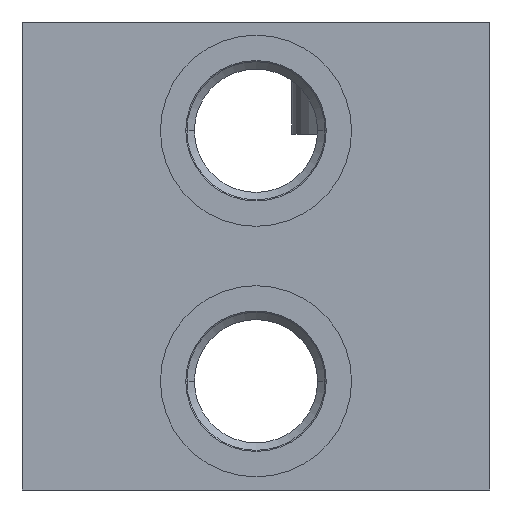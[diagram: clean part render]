
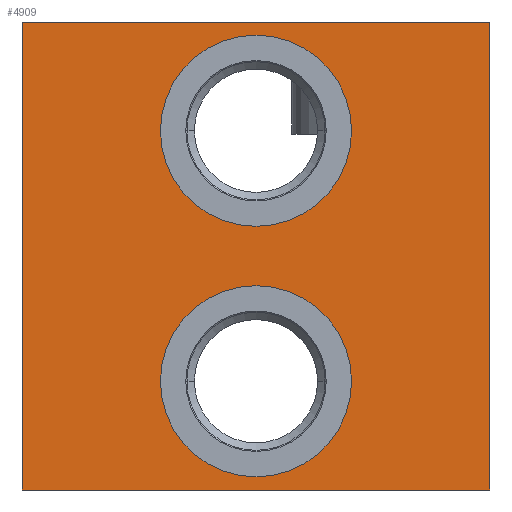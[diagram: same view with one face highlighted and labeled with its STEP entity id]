
A CAD part, left-side view. The second image highlights one B-rep face of the part: STEP entity #4909.
In plain terms, the highlighted planar face has unit normal (-1, 0, 0).
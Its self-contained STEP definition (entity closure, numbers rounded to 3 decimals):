
#30=DIRECTION('',(0.,-1.,0.));
#31=VECTOR('',#30,71.);
#32=CARTESIAN_POINT('',(0.,71.,0.));
#33=LINE('',#32,#31);
#179=DIRECTION('',(0.,0.,-1.));
#180=VECTOR('',#179,71.);
#181=CARTESIAN_POINT('',(0.,0.,0.));
#182=LINE('',#181,#180);
#884=DIRECTION('',(0.,0.,-1.));
#885=VECTOR('',#884,71.);
#886=CARTESIAN_POINT('',(0.,71.,0.));
#887=LINE('',#886,#885);
#891=CARTESIAN_POINT('',(0.,35.5,-54.5));
#892=DIRECTION('',(1.,0.,0.));
#893=DIRECTION('',(0.,-1.,0.));
#894=AXIS2_PLACEMENT_3D('',#891,#892,#893);
#899=CARTESIAN_POINT('',(0.,35.5,-54.5));
#900=DIRECTION('',(1.,0.,0.));
#901=DIRECTION('',(0.,1.,0.));
#902=AXIS2_PLACEMENT_3D('',#899,#900,#901);
#907=CARTESIAN_POINT('',(0.,35.5,-16.5));
#908=DIRECTION('',(1.,0.,0.));
#909=DIRECTION('',(0.,-1.,0.));
#910=AXIS2_PLACEMENT_3D('',#907,#908,#909);
#915=CARTESIAN_POINT('',(0.,35.5,-16.5));
#916=DIRECTION('',(1.,0.,0.));
#917=DIRECTION('',(0.,1.,0.));
#918=AXIS2_PLACEMENT_3D('',#915,#916,#917);
#944=DIRECTION('',(0.,-1.,0.));
#945=VECTOR('',#944,71.);
#946=CARTESIAN_POINT('',(0.,71.,-71.));
#947=LINE('',#946,#945);
#4070=CARTESIAN_POINT('',(0.,0.,0.));
#4072=VERTEX_POINT('',#4070);
#4076=CARTESIAN_POINT('',(0.,71.,0.));
#4077=VERTEX_POINT('',#4076);
#4078=CARTESIAN_POINT('',(0.,0.,-71.));
#4080=VERTEX_POINT('',#4078);
#4084=CARTESIAN_POINT('',(0.,71.,-71.));
#4085=VERTEX_POINT('',#4084);
#4114=CARTESIAN_POINT('',(0.,21.,-54.5));
#4115=CARTESIAN_POINT('',(0.,50.,-54.5));
#4116=VERTEX_POINT('',#4114);
#4117=VERTEX_POINT('',#4115);
#4130=CARTESIAN_POINT('',(0.,21.,-16.5));
#4131=CARTESIAN_POINT('',(0.,50.,-16.5));
#4132=VERTEX_POINT('',#4130);
#4133=VERTEX_POINT('',#4131);
#4885=CARTESIAN_POINT('',(0.,71.,0.));
#4886=DIRECTION('',(-1.,0.,0.));
#4887=DIRECTION('',(0.,-1.,0.));
#4888=AXIS2_PLACEMENT_3D('',#4885,#4886,#4887);
#4889=PLANE('',#4888);
#4890=ORIENTED_EDGE('',*,*,#4595,.T.);
#4891=ORIENTED_EDGE('',*,*,#4669,.T.);
#4893=ORIENTED_EDGE('',*,*,#4892,.F.);
#4894=ORIENTED_EDGE('',*,*,#4756,.F.);
#4895=EDGE_LOOP('',(#4890,#4891,#4893,#4894));
#4896=FACE_OUTER_BOUND('',#4895,.F.);
#4898=ORIENTED_EDGE('',*,*,#4897,.F.);
#4900=ORIENTED_EDGE('',*,*,#4899,.F.);
#4901=EDGE_LOOP('',(#4898,#4900));
#4902=FACE_BOUND('',#4901,.F.);
#4904=ORIENTED_EDGE('',*,*,#4903,.F.);
#4906=ORIENTED_EDGE('',*,*,#4905,.F.);
#4907=EDGE_LOOP('',(#4904,#4906));
#4908=FACE_BOUND('',#4907,.F.);
#895=CIRCLE('',#894,14.5);
#903=CIRCLE('',#902,14.5);
#911=CIRCLE('',#910,14.5);
#919=CIRCLE('',#918,14.5);
#4595=EDGE_CURVE('',#4077,#4072,#33,.T.);
#4669=EDGE_CURVE('',#4072,#4080,#182,.T.);
#4756=EDGE_CURVE('',#4077,#4085,#887,.T.);
#4892=EDGE_CURVE('',#4085,#4080,#947,.T.);
#4897=EDGE_CURVE('',#4116,#4117,#895,.T.);
#4899=EDGE_CURVE('',#4117,#4116,#903,.T.);
#4903=EDGE_CURVE('',#4132,#4133,#911,.T.);
#4905=EDGE_CURVE('',#4133,#4132,#919,.T.);
#4909=ADVANCED_FACE('',(#4896,#4902,#4908),#4889,.T.);
